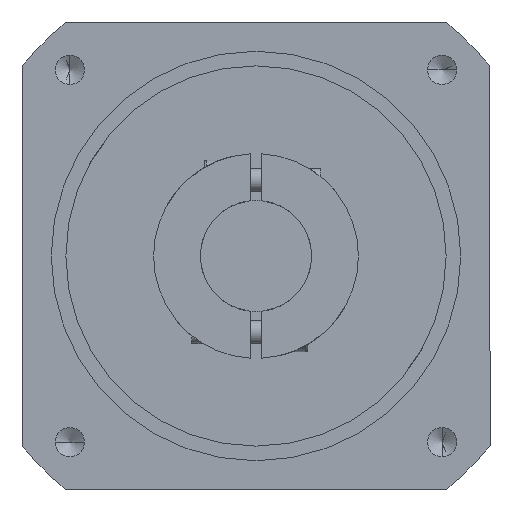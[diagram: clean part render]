
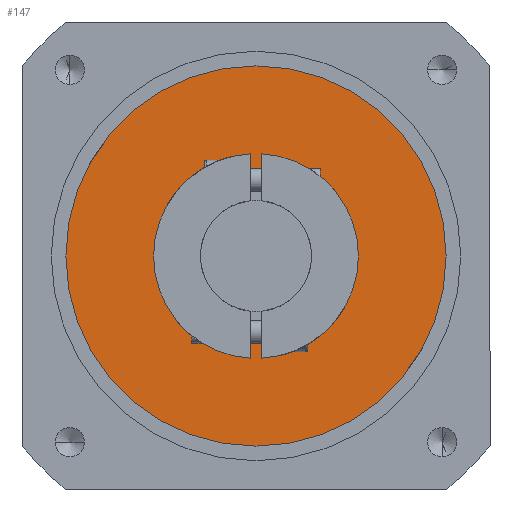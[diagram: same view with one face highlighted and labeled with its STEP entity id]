
A CAD part, front view. The second image highlights one B-rep face of the part: STEP entity #147.
In plain terms, the highlighted planar face has unit normal (0, -1, 0).
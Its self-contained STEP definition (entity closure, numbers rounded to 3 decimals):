
#147 = ADVANCED_FACE ( 'NONE', ( #1500, #2816 ), #950, .F. ) ;
#176 = CARTESIAN_POINT ( 'NONE',  ( 0., -33.5, -14.5 ) ) ;
#305 = ORIENTED_EDGE ( 'NONE', *, *, #2962, .F. ) ;
#608 = CARTESIAN_POINT ( 'NONE',  ( 0., -33.5, 0. ) ) ;
#811 = AXIS2_PLACEMENT_3D ( 'NONE', #1135, #4578, #1620 ) ;
#893 = DIRECTION ( 'NONE',  ( 0., 1., 0. ) ) ;
#925 = DIRECTION ( 'NONE',  ( 0., 0., 1. ) ) ;
#950 = PLANE ( 'NONE',  #1831 ) ;
#999 = CARTESIAN_POINT ( 'NONE',  ( 0., -33.5, 14.5 ) ) ;
#1110 = DIRECTION ( 'NONE',  ( 0., 0., 1. ) ) ;
#1135 = CARTESIAN_POINT ( 'NONE',  ( 0., -33.5, 0. ) ) ;
#1164 = DIRECTION ( 'NONE',  ( 0., 1., 0. ) ) ;
#1249 = ORIENTED_EDGE ( 'NONE', *, *, #4681, .T. ) ;
#1500 = FACE_OUTER_BOUND ( 'NONE', #2023, .T. ) ;
#1620 = DIRECTION ( 'NONE',  ( 0., 0., 1. ) ) ;
#1831 = AXIS2_PLACEMENT_3D ( 'NONE', #999, #4392, #925 ) ;
#2023 = EDGE_LOOP ( 'NONE', ( #305, #2208 ) ) ;
#2208 = ORIENTED_EDGE ( 'NONE', *, *, #6329, .F. ) ;
#2528 = AXIS2_PLACEMENT_3D ( 'NONE', #3861, #893, #4350 ) ;
#2673 = CIRCLE ( 'NONE', #2926, 14.5 ) ;
#2816 = FACE_BOUND ( 'NONE', #4522, .T. ) ;
#2926 = AXIS2_PLACEMENT_3D ( 'NONE', #4103, #1164, #4610 ) ;
#2962 = EDGE_CURVE ( 'NONE', #5884, #3652, #3530, .T. ) ;
#3189 = CIRCLE ( 'NONE', #2528, 14.5 ) ;
#3519 = AXIS2_PLACEMENT_3D ( 'NONE', #608, #4055, #1110 ) ;
#3530 = CIRCLE ( 'NONE', #811, 32.5 ) ;
#3652 = VERTEX_POINT ( 'NONE', #5469 ) ;
#3861 = CARTESIAN_POINT ( 'NONE',  ( 0., -33.5, 0. ) ) ;
#4055 = DIRECTION ( 'NONE',  ( 0., 1., 0. ) ) ;
#4103 = CARTESIAN_POINT ( 'NONE',  ( 0., -33.5, 0. ) ) ;
#4350 = DIRECTION ( 'NONE',  ( 0., 0., 1. ) ) ;
#4392 = DIRECTION ( 'NONE',  ( 0., 1., 0. ) ) ;
#4522 = EDGE_LOOP ( 'NONE', ( #4742, #1249 ) ) ;
#4578 = DIRECTION ( 'NONE',  ( 0., 1., 0. ) ) ;
#4610 = DIRECTION ( 'NONE',  ( 0., 0., 1. ) ) ;
#4681 = EDGE_CURVE ( 'NONE', #5350, #5711, #2673, .T. ) ;
#4742 = ORIENTED_EDGE ( 'NONE', *, *, #6175, .T. ) ;
#4880 = CARTESIAN_POINT ( 'NONE',  ( 0., -33.5, 14.5 ) ) ;
#5350 = VERTEX_POINT ( 'NONE', #176 ) ;
#5469 = CARTESIAN_POINT ( 'NONE',  ( 0., -33.5, -32.5 ) ) ;
#5526 = CARTESIAN_POINT ( 'NONE',  ( 0., -33.5, 32.5 ) ) ;
#5711 = VERTEX_POINT ( 'NONE', #4880 ) ;
#5884 = VERTEX_POINT ( 'NONE', #5526 ) ;
#6175 = EDGE_CURVE ( 'NONE', #5711, #5350, #3189, .T. ) ;
#6177 = CIRCLE ( 'NONE', #3519, 32.5 ) ;
#6329 = EDGE_CURVE ( 'NONE', #3652, #5884, #6177, .T. ) ;
